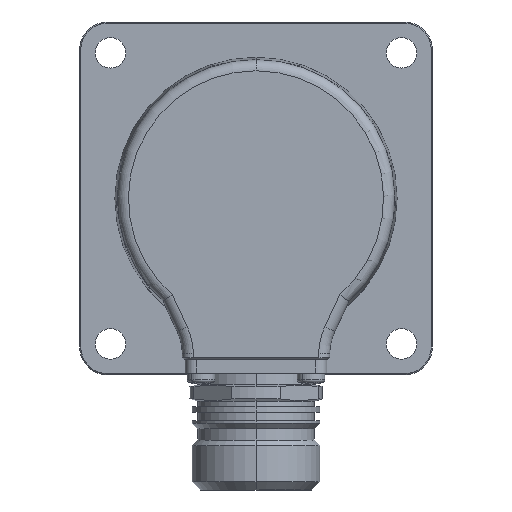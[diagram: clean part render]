
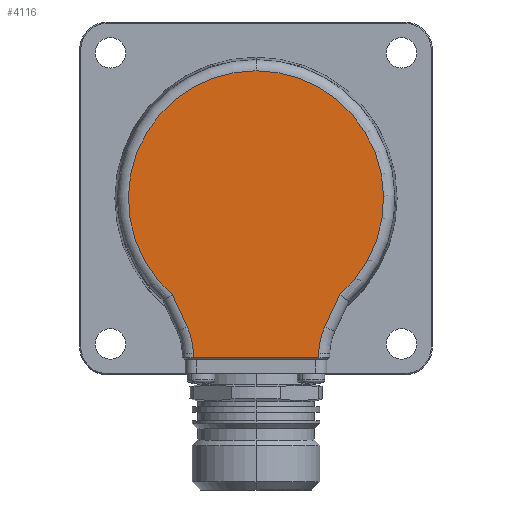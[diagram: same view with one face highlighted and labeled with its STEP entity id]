
A CAD part, left-side view. The second image highlights one B-rep face of the part: STEP entity #4116.
In plain terms, the highlighted planar face has unit normal (-1, 0, 0).
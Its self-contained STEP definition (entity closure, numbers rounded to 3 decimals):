
#3735 = VERTEX_POINT ( 'NONE', #31937 ) ;
#3844 = EDGE_CURVE ( 'NONE', #3845, #3735, #32324, .T. ) ;
#3845 = VERTEX_POINT ( 'NONE', #32381 ) ;
#4103 = ORIENTED_EDGE ( 'NONE', *, *, #4104, .T. ) ;
#4104 = EDGE_CURVE ( 'NONE', #4192, #4105, #22426, .T. ) ;
#4105 = VERTEX_POINT ( 'NONE', #22421 ) ;
#4106 = ORIENTED_EDGE ( 'NONE', *, *, #4107, .T. ) ;
#4107 = EDGE_CURVE ( 'NONE', #4105, #4108, #22420, .T. ) ;
#4108 = VERTEX_POINT ( 'NONE', #22416 ) ;
#4109 = ORIENTED_EDGE ( 'NONE', *, *, #4110, .T. ) ;
#4110 = EDGE_CURVE ( 'NONE', #4108, #3845, #22414, .T. ) ;
#4111 = ORIENTED_EDGE ( 'NONE', *, *, #3844, .T. ) ;
#4116 = ADVANCED_FACE ( 'NONE', ( #22404 ), #22447, .F. ) ;
#4117 = EDGE_LOOP ( 'NONE', ( #4118, #4122, #4190, #4103, #4106, #4109, #4111, #4282, #4309 ) ) ;
#4118 = ORIENTED_EDGE ( 'NONE', *, *, #4119, .T. ) ;
#4119 = EDGE_CURVE ( 'NONE', #4120, #4121, #22446, .T. ) ;
#4120 = VERTEX_POINT ( 'NONE', #22438 ) ;
#4121 = VERTEX_POINT ( 'NONE', #22437 ) ;
#4122 = ORIENTED_EDGE ( 'NONE', *, *, #4123, .T. ) ;
#4123 = EDGE_CURVE ( 'NONE', #4121, #4124, #22436, .T. ) ;
#4124 = VERTEX_POINT ( 'NONE', #22432 ) ;
#4190 = ORIENTED_EDGE ( 'NONE', *, *, #4191, .T. ) ;
#4191 = EDGE_CURVE ( 'NONE', #4124, #4192, #22693, .T. ) ;
#4192 = VERTEX_POINT ( 'NONE', #22685 ) ;
#4282 = ORIENTED_EDGE ( 'NONE', *, *, #4283, .T. ) ;
#4283 = EDGE_CURVE ( 'NONE', #3735, #4291, #22976, .T. ) ;
#4291 = VERTEX_POINT ( 'NONE', #22966 ) ;
#4309 = ORIENTED_EDGE ( 'NONE', *, *, #4311, .T. ) ;
#4311 = EDGE_CURVE ( 'NONE', #4291, #4120, #23062, .T. ) ;
#22404 = FACE_OUTER_BOUND ( 'NONE', #4117, .T. ) ;
#22410 = DIRECTION ( 'NONE',  ( 0., 0., 1. ) ) ;
#22411 = DIRECTION ( 'NONE',  ( -1., 0., 0. ) ) ;
#22412 = CARTESIAN_POINT ( 'NONE',  ( -21., 0., 0. ) ) ;
#22413 = AXIS2_PLACEMENT_3D ( 'NONE', #22412, #22411, #22410 ) ;
#22414 = CIRCLE ( 'NONE', #22413, 22.972 ) ;
#22416 = CARTESIAN_POINT ( 'NONE',  ( -21., -15.091, -17.32 ) ) ;
#22417 = DIRECTION ( 'NONE',  ( 0., -0.423, 0.906 ) ) ;
#22418 = VECTOR ( 'NONE', #22417, 1000. ) ;
#22419 = CARTESIAN_POINT ( 'NONE',  ( -21., -14.953, -17.615 ) ) ;
#22420 = LINE ( 'NONE', #22419, #22418 ) ;
#22421 = CARTESIAN_POINT ( 'NONE',  ( -21., -12.39, -23.112 ) ) ;
#22422 = DIRECTION ( 'NONE',  ( 0., 0., 1. ) ) ;
#22423 = DIRECTION ( 'NONE',  ( 1., 0., 0. ) ) ;
#22424 = CARTESIAN_POINT ( 'NONE',  ( -21., -23.266, -28.183 ) ) ;
#22425 = AXIS2_PLACEMENT_3D ( 'NONE', #22424, #22423, #22422 ) ;
#22426 = CIRCLE ( 'NONE', #22425, 12. ) ;
#22432 = CARTESIAN_POINT ( 'NONE',  ( -21., -11.255, -28.695 ) ) ;
#22433 = DIRECTION ( 'NONE',  ( 0., -1., 0. ) ) ;
#22434 = VECTOR ( 'NONE', #22433, 1000. ) ;
#22435 = CARTESIAN_POINT ( 'NONE',  ( -21., -11.25, -28.695 ) ) ;
#22436 = LINE ( 'NONE', #22435, #22434 ) ;
#22437 = CARTESIAN_POINT ( 'NONE',  ( -21., 11.255, -28.695 ) ) ;
#22438 = CARTESIAN_POINT ( 'NONE',  ( -21., 11.268, -27.974 ) ) ;
#22439 = DIRECTION ( 'NONE',  ( 0., -0.017, -1. ) ) ;
#22440 = VECTOR ( 'NONE', #22439, 1000. ) ;
#22441 = CARTESIAN_POINT ( 'NONE',  ( -21., 11.752, -0.205 ) ) ;
#22442 = DIRECTION ( 'NONE',  ( 0., 0., 1. ) ) ;
#22443 = DIRECTION ( 'NONE',  ( 1., 0., 0. ) ) ;
#22444 = CARTESIAN_POINT ( 'NONE',  ( -21., 0., 0. ) ) ;
#22445 = AXIS2_PLACEMENT_3D ( 'NONE', #22444, #22443, #22442 ) ;
#22446 = LINE ( 'NONE', #22441, #22440 ) ;
#22447 = PLANE ( 'NONE',  #22445 ) ;
#22685 = CARTESIAN_POINT ( 'NONE',  ( -21., -11.268, -27.974 ) ) ;
#22686 = DIRECTION ( 'NONE',  ( 0., -0.017, 1. ) ) ;
#22687 = VECTOR ( 'NONE', #22686, 1000. ) ;
#22688 = CARTESIAN_POINT ( 'NONE',  ( -21., -11.752, -0.205 ) ) ;
#22693 = LINE ( 'NONE', #22688, #22687 ) ;
#22966 = CARTESIAN_POINT ( 'NONE',  ( -21., 12.39, -23.112 ) ) ;
#22973 = DIRECTION ( 'NONE',  ( 0., -0.423, -0.906 ) ) ;
#22974 = VECTOR ( 'NONE', #22973, 1000. ) ;
#22975 = CARTESIAN_POINT ( 'NONE',  ( -21., 12.39, -23.112 ) ) ;
#22976 = LINE ( 'NONE', #22975, #22974 ) ;
#23058 = DIRECTION ( 'NONE',  ( 0., 0., 1. ) ) ;
#23059 = DIRECTION ( 'NONE',  ( 1., 0., 0. ) ) ;
#23060 = CARTESIAN_POINT ( 'NONE',  ( -21., 23.266, -28.183 ) ) ;
#23061 = AXIS2_PLACEMENT_3D ( 'NONE', #23060, #23059, #23058 ) ;
#23062 = CIRCLE ( 'NONE', #23061, 12. ) ;
#31937 = CARTESIAN_POINT ( 'NONE',  ( -21., 15.091, -17.32 ) ) ;
#32324 = CIRCLE ( 'NONE', #32385, 22.972 ) ;
#32381 = CARTESIAN_POINT ( 'NONE',  ( -21., 0., 22.972 ) ) ;
#32382 = DIRECTION ( 'NONE',  ( 0., 0., 1. ) ) ;
#32383 = DIRECTION ( 'NONE',  ( -1., 0., 0. ) ) ;
#32384 = CARTESIAN_POINT ( 'NONE',  ( -21., 0., 0. ) ) ;
#32385 = AXIS2_PLACEMENT_3D ( 'NONE', #32384, #32383, #32382 ) ;
